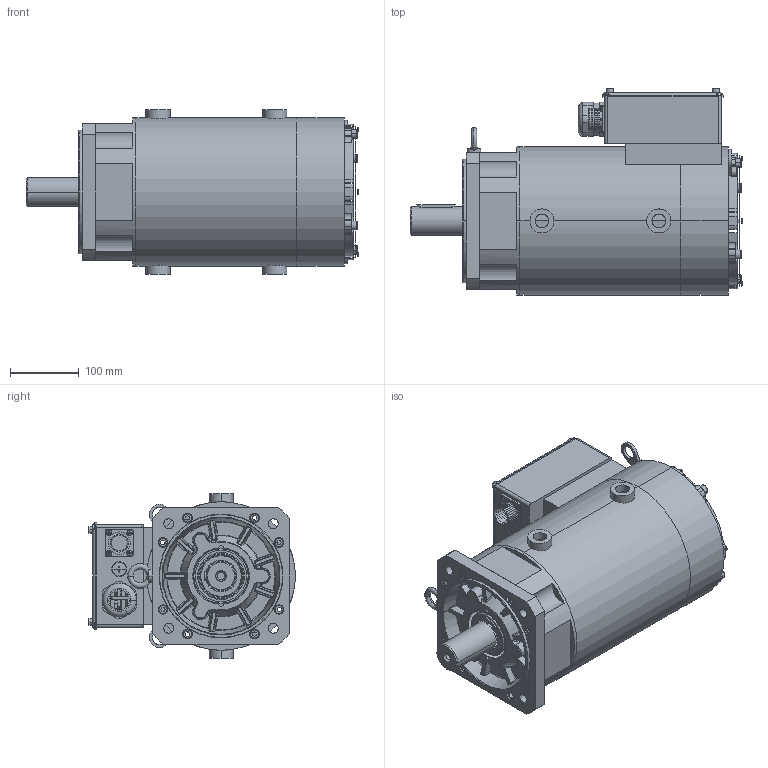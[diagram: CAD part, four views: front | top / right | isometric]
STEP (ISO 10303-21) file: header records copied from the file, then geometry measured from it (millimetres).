
FILE_DESCRIPTION((''),'2;1');
FILE_NAME('11101-01790_SW0001','2026-02-12T16:54:20',('admin'),(''),'CREO PARAMETRIC BY PTC INC, 2019080','CREO PARAMETRIC BY PTC INC, 2019080','');
FILE_SCHEMA(('CONFIG_CONTROL_DESIGN'));
Length unit declared in the file: millimetre
Products named in the file (1): 11101-01790_SW0001
Bounding box: 483 x 300.5 x 240 mm (x, y, z)
Surface area: 847962.9 mm2 (no closed solid volume)
Topology: 0 solids, 122 shells, 682 faces, 2908 edges, 2296 vertices
Faces by surface type: plane 281, cylinder 239, cone 74, torus 73, sphere 10, bspline 5
Entity records: 32329 total; most frequent: CARTESIAN_POINT 8558, DIRECTION 5255, ORIENTED_EDGE 3918, EDGE_CURVE 2908, VERTEX_POINT 2296, AXIS2_PLACEMENT_3D 1946, VECTOR 1363, LINE 1363
